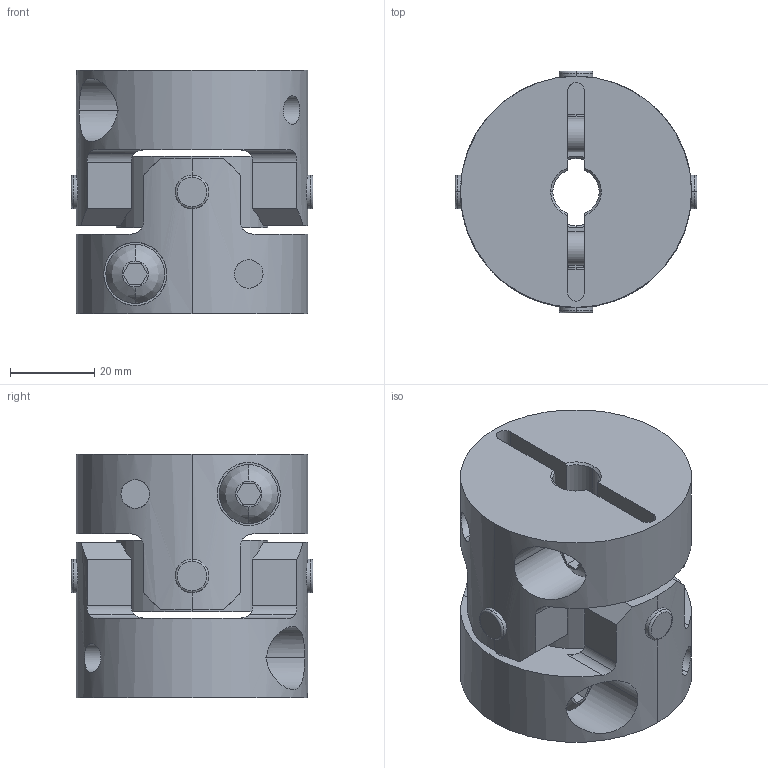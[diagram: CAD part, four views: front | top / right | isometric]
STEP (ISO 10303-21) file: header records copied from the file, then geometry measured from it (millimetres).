
FILE_DESCRIPTION((''),'2;1');
FILE_NAME('UA-55C-11×16.stp','2013-05-22T13:29:54',(''),(''),'AutoCAD STEP 2000i','AutoCAD 2000i',', , ');
FILE_SCHEMA(('CONFIG_CONTROL_DESIGN'));
Length unit declared in the file: millimetre
Products named in the file (6): UA-55C-10×10; 忣兜1; UA-5502-D10-1; BTN-M8; UA-5502-D10; UA55-SEN
Assembly tree (6 placements, depth 3):
  UA-55C-10×10
    忣兜1
    UA-5502-D10-1
      BTN-M8
    UA-5502-D10
      BTN-M8
    UA55-SEN
Bounding box: 57.55 x 57.55 x 58 mm (x, y, z)
Volume: 99768.9 mm3; surface area: 31828.3 mm2
Topology: 1 solids, 1 shells, 206 faces, 554 edges, 364 vertices
Faces by surface type: cylinder 96, plane 78, cone 16, bspline 8, torus 8
Entity records: 8383 total; most frequent: CARTESIAN_POINT 3067, ORIENTED_EDGE 1108, DIRECTION 1064, EDGE_CURVE 554, AXIS2_PLACEMENT_3D 409, VERTEX_POINT 364, VECTOR 246, LINE 246
